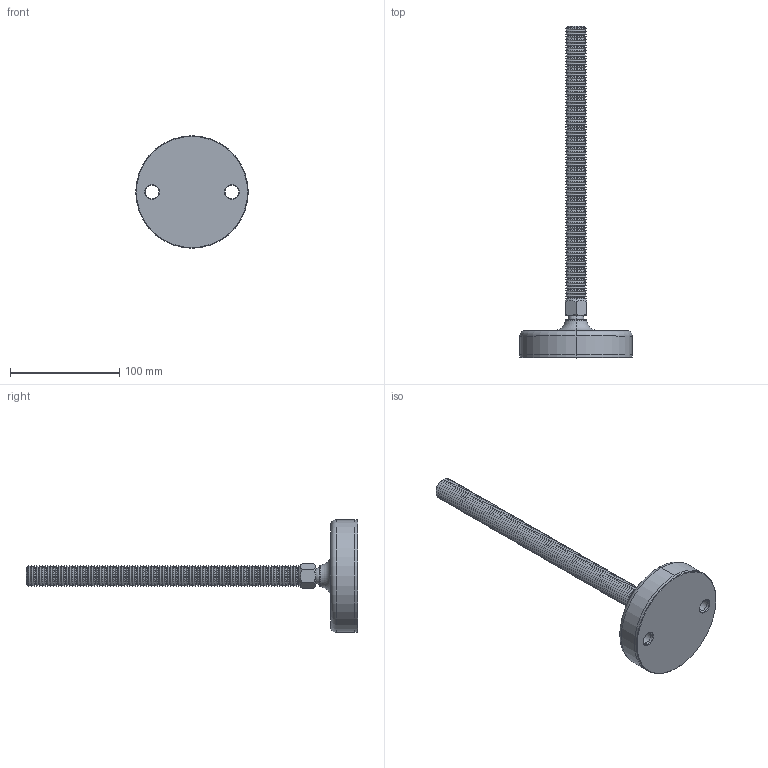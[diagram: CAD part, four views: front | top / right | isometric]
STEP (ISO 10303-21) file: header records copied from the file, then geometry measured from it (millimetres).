
FILE_DESCRIPTION (( 'STEP AP203' ), '1' );
FILE_NAME ('34724.W2014.step', '2019-11-28T22:19:31', ( '' ), ( '' ), 'SwSTEP 2.0', 'SolidWorks 2017', '' );
FILE_SCHEMA (( 'CONFIG_CONTROL_DESIGN' ));
Length unit declared in the file: millimetre
Products named in the file (4): Part2_34724.W2014; Part3_34724.W2014; 34724.W2014; Part1_34724.W2014
Assembly tree (3 placements, depth 2):
  34724.W2014
    Part1_34724.W2014
    Part2_34724.W2014
    Part3_34724.W2014
Bounding box: 103 x 304 x 103 mm (x, y, z)
Volume: 273648.3 mm3; surface area: 72138.1 mm2
Topology: 3 solids, 3 shells, 452 faces, 919 edges, 473 vertices
Faces by surface type: cone 418, plane 14, cylinder 12, sphere 4, torus 4
Entity records: 11966 total; most frequent: DIRECTION 2276, CARTESIAN_POINT 1988, ORIENTED_EDGE 1820, AXIS2_PLACEMENT_3D 920, EDGE_CURVE 910, VERTEX_POINT 468, EDGE_LOOP 464, CIRCLE 462
